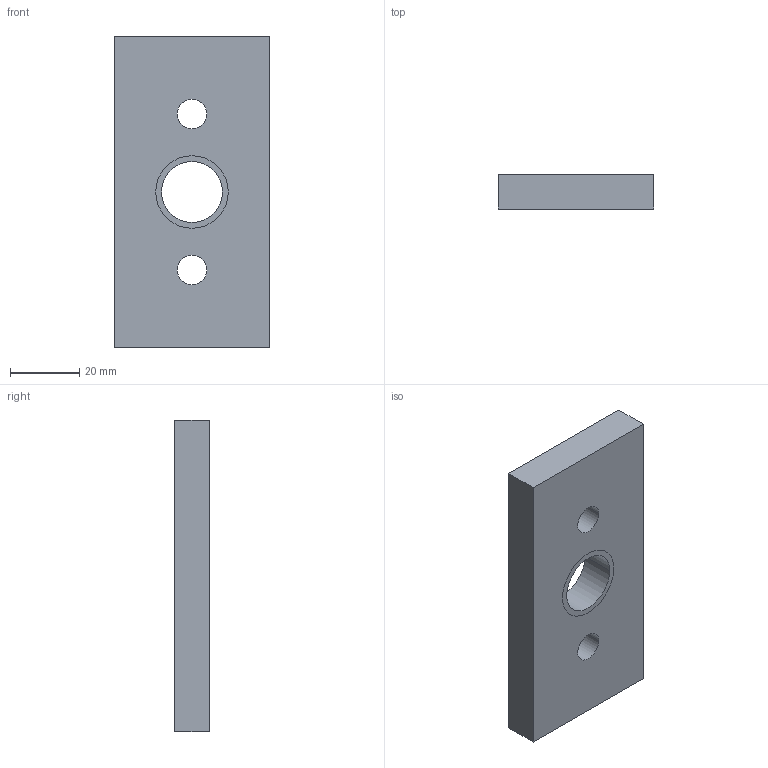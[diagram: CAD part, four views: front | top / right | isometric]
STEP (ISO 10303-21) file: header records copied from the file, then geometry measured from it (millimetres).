
FILE_DESCRIPTION((''),'2;1');
FILE_NAME('TAP045090_1','2002-12-27T',('Lipro doo'),('Lipro d.o.o.'),'PRO/ENGINEER BY PARAMETRIC TECHNOLOGY CORPORATION, 2001150','PRO/ENGINEER BY PARAMETRIC TECHNOLOGY CORPORATION, 2001150','');
FILE_SCHEMA(('CONFIG_CONTROL_DESIGN'));
Length unit declared in the file: millimetre
Products named in the file (1): TAP045090_1
Bounding box: 45 x 10 x 90 mm (x, y, z)
Volume: 36373.2 mm3; surface area: 11748.5 mm2
Topology: 1 solids, 2 shells, 18 faces, 44 edges, 28 vertices
Faces by surface type: cylinder 8, plane 6, cone 4
Entity records: 592 total; most frequent: DIRECTION 102, CARTESIAN_POINT 91, ORIENTED_EDGE 84, EDGE_CURVE 44, AXIS2_PLACEMENT_3D 39, VERTEX_POINT 28, VECTOR 24, LINE 24
